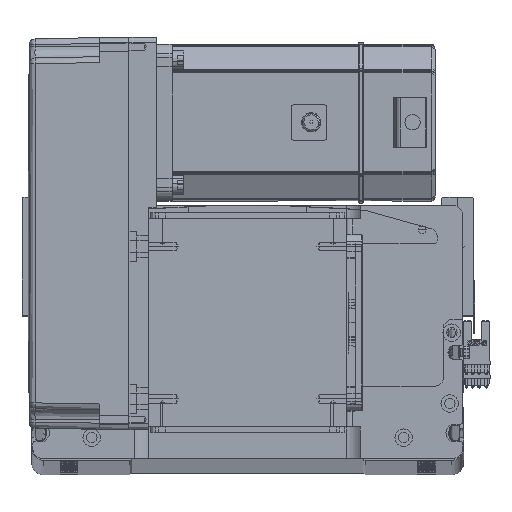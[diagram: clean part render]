
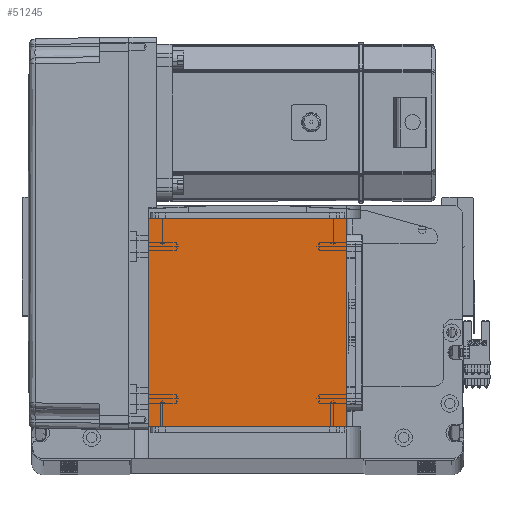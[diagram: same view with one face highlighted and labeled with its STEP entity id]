
A CAD part, top view. The second image highlights one B-rep face of the part: STEP entity #51245.
In plain terms, the highlighted planar face has unit normal (0, 0, 1).
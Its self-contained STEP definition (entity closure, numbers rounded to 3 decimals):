
#375 = ORIENTED_EDGE ( 'NONE', *, *, #51148, .T. ) ;
#1083 = CARTESIAN_POINT ( 'NONE',  ( 50.5, 16., 115. ) ) ;
#3600 = DIRECTION ( 'NONE',  ( -1., 0., 0. ) ) ;
#3886 = LINE ( 'NONE', #61231, #50228 ) ;
#4440 = CARTESIAN_POINT ( 'NONE',  ( -50.5, 122., 115. ) ) ;
#5565 = LINE ( 'NONE', #33073, #36659 ) ;
#5706 = PLANE ( 'NONE',  #14141 ) ;
#8516 = CARTESIAN_POINT ( 'NONE',  ( -50.5, 16., 115. ) ) ;
#10782 = DIRECTION ( 'NONE',  ( 0., 0., 1. ) ) ;
#13976 = DIRECTION ( 'NONE',  ( 0., -1., 0. ) ) ;
#14141 = AXIS2_PLACEMENT_3D ( 'NONE', #49851, #10782, #44371 ) ;
#16575 = VERTEX_POINT ( 'NONE', #1083 ) ;
#18102 = ORIENTED_EDGE ( 'NONE', *, *, #57313, .T. ) ;
#18237 = VERTEX_POINT ( 'NONE', #50046 ) ;
#18408 = EDGE_LOOP ( 'NONE', ( #375, #18102, #18918, #37549 ) ) ;
#18565 = VERTEX_POINT ( 'NONE', #44835 ) ;
#18918 = ORIENTED_EDGE ( 'NONE', *, *, #54819, .T. ) ;
#19934 = CARTESIAN_POINT ( 'NONE',  ( -50.5, 16., 115. ) ) ;
#24891 = VECTOR ( 'NONE', #13976, 1000. ) ;
#29661 = LINE ( 'NONE', #8516, #52458 ) ;
#33073 = CARTESIAN_POINT ( 'NONE',  ( -50.5, 122., 115. ) ) ;
#36627 = EDGE_CURVE ( 'NONE', #18565, #18237, #5565, .T. ) ;
#36659 = VECTOR ( 'NONE', #3600, 1000. ) ;
#37549 = ORIENTED_EDGE ( 'NONE', *, *, #36627, .T. ) ;
#44371 = DIRECTION ( 'NONE',  ( 1., 0., 0. ) ) ;
#44835 = CARTESIAN_POINT ( 'NONE',  ( 50.5, 122., 115. ) ) ;
#48016 = DIRECTION ( 'NONE',  ( 1., 0., 0. ) ) ;
#49851 = CARTESIAN_POINT ( 'NONE',  ( 0., 0., 115. ) ) ;
#50046 = CARTESIAN_POINT ( 'NONE',  ( -50.5, 122., 115. ) ) ;
#50228 = VECTOR ( 'NONE', #61657, 1000. ) ;
#51148 = EDGE_CURVE ( 'NONE', #18237, #55723, #62873, .T. ) ;
#51245 = ADVANCED_FACE ( 'NONE', ( #53024 ), #5706, .T. ) ;
#52458 = VECTOR ( 'NONE', #48016, 1000. ) ;
#53024 = FACE_OUTER_BOUND ( 'NONE', #18408, .T. ) ;
#54819 = EDGE_CURVE ( 'NONE', #16575, #18565, #3886, .T. ) ;
#55723 = VERTEX_POINT ( 'NONE', #19934 ) ;
#57313 = EDGE_CURVE ( 'NONE', #55723, #16575, #29661, .T. ) ;
#61231 = CARTESIAN_POINT ( 'NONE',  ( 50.5, 122., 115. ) ) ;
#61657 = DIRECTION ( 'NONE',  ( 0., 1., 0. ) ) ;
#62873 = LINE ( 'NONE', #4440, #24891 ) ;
